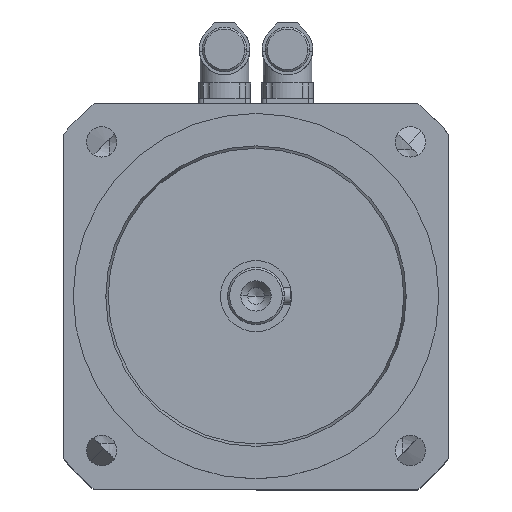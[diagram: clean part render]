
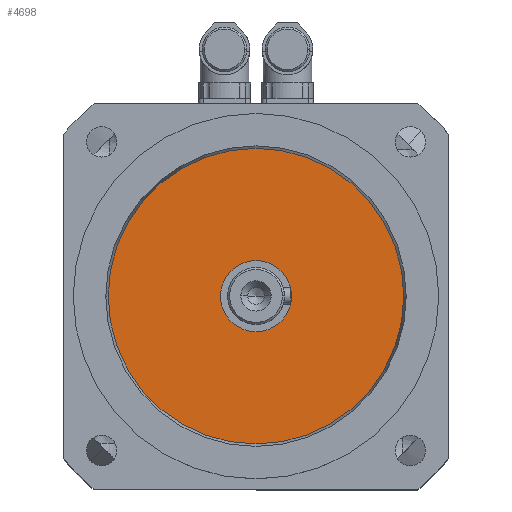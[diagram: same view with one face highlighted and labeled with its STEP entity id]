
A CAD part, top view. The second image highlights one B-rep face of the part: STEP entity #4698.
In plain terms, the highlighted planar face has unit normal (0, 0, 1).
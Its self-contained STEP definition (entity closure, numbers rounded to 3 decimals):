
#3573=CARTESIAN_POINT('',(-72.794,0.,310.5));
#3574=VERTEX_POINT('',#3573);
#3583=CARTESIAN_POINT('',(72.794,0.,310.5));
#3584=VERTEX_POINT('',#3583);
#3585=CARTESIAN_POINT('',(0.0,0.0,310.5));
#3586=DIRECTION('',(0.0,0.0,1.0));
#3587=DIRECTION('',(-1.0,0.0,0.0));
#3588=AXIS2_PLACEMENT_3D('',#3585,#3586,#3587);
#3589=CIRCLE('',#3588,72.794);
#3590=EDGE_CURVE('',#3584,#3574,#3589,.T.);
#3835=CARTESIAN_POINT('',(-17.5,0.,310.5));
#3836=VERTEX_POINT('',#3835);
#3845=CARTESIAN_POINT('',(17.5,0.,310.5));
#3846=VERTEX_POINT('',#3845);
#3847=CARTESIAN_POINT('',(0.0,0.0,310.5));
#3848=DIRECTION('',(0.0,0.0,-1.0));
#3849=DIRECTION('',(-1.0,0.0,0.0));
#3850=AXIS2_PLACEMENT_3D('',#3847,#3848,#3849);
#3851=CIRCLE('',#3850,17.5);
#3852=EDGE_CURVE('',#3846,#3836,#3851,.T.);
#4481=CARTESIAN_POINT('',(0.0,0.0,310.5));
#4482=DIRECTION('',(0.0,0.0,-1.0));
#4483=DIRECTION('',(-1.0,0.0,0.0));
#4484=AXIS2_PLACEMENT_3D('',#4481,#4482,#4483);
#4485=CIRCLE('',#4484,17.5);
#4486=EDGE_CURVE('',#3836,#3846,#4485,.T.);
#4679=CARTESIAN_POINT('',(80.074,-80.074,310.5));
#4680=DIRECTION('',(0.0,0.0,-1.0));
#4681=DIRECTION('',(-1.0,0.0,0.0));
#4682=AXIS2_PLACEMENT_3D('',#4679,#4680,#4681);
#4683=PLANE('',#4682);
#4684=ORIENTED_EDGE('',*,*,#3590,.T.);
#4685=CARTESIAN_POINT('',(0.0,0.0,310.5));
#4686=DIRECTION('',(0.0,0.0,1.0));
#4687=DIRECTION('',(-1.0,0.0,0.0));
#4688=AXIS2_PLACEMENT_3D('',#4685,#4686,#4687);
#4689=CIRCLE('',#4688,72.794);
#4690=EDGE_CURVE('',#3574,#3584,#4689,.T.);
#4691=ORIENTED_EDGE('',*,*,#4690,.T.);
#4692=EDGE_LOOP('',(#4684,#4691));
#4693=FACE_OUTER_BOUND('',#4692,.T.);
#4694=ORIENTED_EDGE('',*,*,#3852,.T.);
#4695=ORIENTED_EDGE('',*,*,#4486,.T.);
#4696=EDGE_LOOP('',(#4694,#4695));
#4697=FACE_BOUND('',#4696,.T.);
#4698=ADVANCED_FACE('',(#4693,#4697),#4683,.F.);
